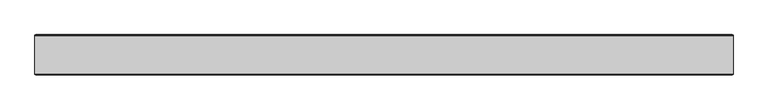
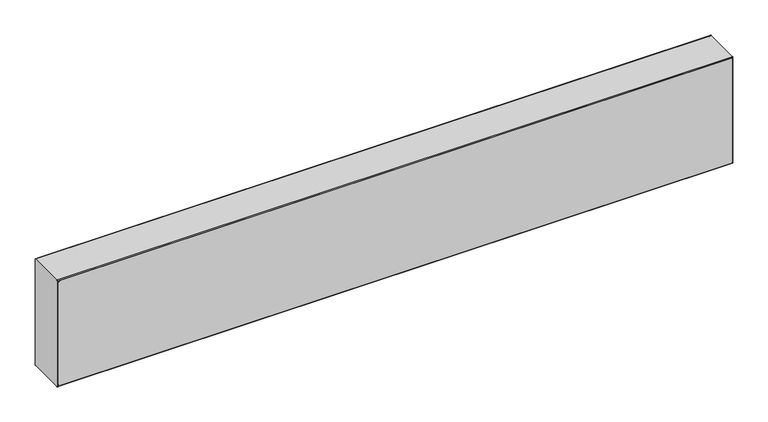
"""IFC4 building model written with IfcOpenShell, lengths in millimetres: proxy geometry, EVRA CV Д : 22-300-1800."""

from ifc_helpers import new_model, si_unit, point, frame, frame_2d, origin, place, context, project, spatial, polyline, circle_curve, trimmed, segment, composite_curve, outline, extrude, source, transform, mapped, element, save


def mechanical_equipment_fc217036(model_context):
    return source(origin(), model_context, "Body", "SweptSolid", [
        extrude(outline(composite_curve([segment(polyline([(398.0, 1093.0), (398.0, -693.0)]), True, "CONTINUOUS"), segment(trimmed(circle_curve(frame_2d((393.0, -693.0)), 5.0), [point((398.0, -693.0))], [point((393.0, -698.0))], False, "CARTESIAN"), True, "CONTINUOUS"), segment(polyline([(393.0, -698.0), (107.0, -698.0)]), True, "CONTINUOUS"), segment(trimmed(circle_curve(frame_2d((107.0, -693.0)), 5.0), [point((107.0, -698.0))], [point((102.0, -693.0))], False, "CARTESIAN"), True, "CONTINUOUS"), segment(polyline([(102.0, -693.0), (102.0, 1093.0)]), True, "CONTINUOUS"), segment(trimmed(circle_curve(frame_2d((107.0, 1093.0)), 5.0), [point((102.0, 1093.0))], [point((107.0, 1098.0))], False, "CARTESIAN"), True, "CONTINUOUS"), segment(polyline([(107.0, 1098.0), (393.0, 1098.0)]), True, "CONTINUOUS"), segment(trimmed(circle_curve(frame_2d((393.0, 1093.0)), 5.0), [point((393.0, 1098.0))], [point((398.0, 1093.0))], False, "CARTESIAN"), True, "CONTINUOUS")], self_intersect=False)), frame((0.0, 11.4631102, 0.0), z_axis=(0.0, 1.0, 0.0), x_axis=(0.0, 0.0, 1.0)), (0.0, 0.0, 1.0), 1.0),
        extrude(outline(composite_curve([segment(polyline([(398.0, 1093.0), (398.0, -693.0)]), True, "CONTINUOUS"), segment(trimmed(circle_curve(frame_2d((393.0, -693.0)), 5.0), [point((398.0, -693.0))], [point((393.0, -698.0))], False, "CARTESIAN"), True, "CONTINUOUS"), segment(polyline([(393.0, -698.0), (107.0, -698.0)]), True, "CONTINUOUS"), segment(trimmed(circle_curve(frame_2d((107.0, -693.0)), 5.0), [point((107.0, -698.0))], [point((102.0, -693.0))], False, "CARTESIAN"), True, "CONTINUOUS"), segment(polyline([(102.0, -693.0), (102.0, 1093.0)]), True, "CONTINUOUS"), segment(trimmed(circle_curve(frame_2d((107.0, 1093.0)), 5.0), [point((102.0, 1093.0))], [point((107.0, 1098.0))], False, "CARTESIAN"), True, "CONTINUOUS"), segment(polyline([(107.0, 1098.0), (393.0, 1098.0)]), True, "CONTINUOUS"), segment(trimmed(circle_curve(frame_2d((393.0, 1093.0)), 5.0), [point((393.0, 1098.0))], [point((398.0, 1093.0))], False, "CARTESIAN"), True, "CONTINUOUS")], self_intersect=False)), frame((0.0, -91.5368898, 0.0), z_axis=(0.0, 1.0, 0.0), x_axis=(0.0, 0.0, 1.0)), (0.0, 0.0, 1.0), 1.0),
        extrude(outline(composite_curve([segment(trimmed(circle_curve(frame_2d((9.4631102, 398.0)), 2.0), [point((9.4631102, 400.0))], [point((11.4631102, 398.0))], False, "CARTESIAN"), True, "CONTINUOUS"), segment(polyline([(11.4631102, 398.0), (11.4631102, 102.0)]), True, "CONTINUOUS"), segment(trimmed(circle_curve(frame_2d((9.4631102, 102.0)), 2.0), [point((11.4631102, 102.0))], [point((9.4631102, 100.0))], False, "CARTESIAN"), True, "CONTINUOUS"), segment(polyline([(9.4631102, 100.0), (-88.5368898, 100.0)]), True, "CONTINUOUS"), segment(trimmed(circle_curve(frame_2d((-88.5368898, 102.0)), 2.0), [point((-88.5368898, 100.0))], [point((-90.5368898, 102.0))], False, "CARTESIAN"), True, "CONTINUOUS"), segment(polyline([(-90.5368898, 102.0), (-90.5368898, 398.0)]), True, "CONTINUOUS"), segment(trimmed(circle_curve(frame_2d((-88.5368898, 398.0)), 2.0), [point((-90.5368898, 398.0))], [point((-88.5368898, 400.0))], False, "CARTESIAN"), True, "CONTINUOUS"), segment(polyline([(-88.5368898, 400.0), (9.4631102, 400.0)]), True, "CONTINUOUS")], self_intersect=False)), frame((-700.0, 0.0, 0.0), z_axis=(1.0, 0.0, 0.0), x_axis=(0.0, 1.0, 0.0)), (0.0, 0.0, 1.0), 1800.0),
    ])


if __name__ == "__main__":
    model = new_model("IFC4")
    model_context = context("Model", 3, world=origin())
    ifc_project = project(units=[si_unit("LENGTHUNIT", "METRE", prefix="MILLI")], contexts=[model_context])
    site = spatial("IfcSite", under=ifc_project)
    building = spatial("IfcBuilding", under=site)
    placement = place(None, origin())
    mechanical_equipment_shape = mechanical_equipment_fc217036(model_context)
    element("IfcBuildingElementProxy", 1, Name="EVRA CV Д : 22-300-1800", ObjectType="EVRA CV Д : 22-300-1800", at=placement, inside=building, context=model_context, shape_type="MappedRepresentation", body=[
        mapped(mechanical_equipment_shape, transform((0.0, 0.0, 0.0), x_axis=(1.0, 0.0, 0.0), y_axis=(0.0, 1.0, 0.0), z_axis=(0.0, 0.0, 1.0))),
    ])
    save(model, "model.ifc")
